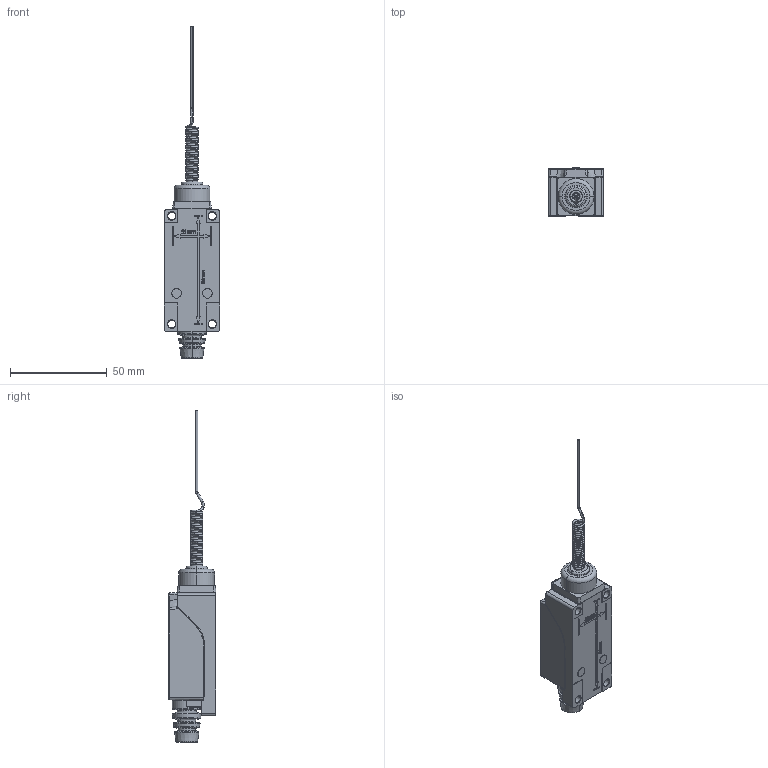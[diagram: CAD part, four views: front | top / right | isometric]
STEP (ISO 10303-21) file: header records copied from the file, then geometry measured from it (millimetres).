
FILE_DESCRIPTION((''),'2;1');
FILE_NAME('ALS1-M11_J1_ASM','2019-02-20T16:19:08',('1'),(''),'CREO PARAMETRIC BY PTC INC, 2016510','CREO PARAMETRIC BY PTC INC, 2016510','');
FILE_SCHEMA(('CONFIG_CONTROL_DESIGN'));
Products named in the file (1): ALS1-M11_J1_ASM
Bounding box: 28.5 x 24.8 x 171.8 mm (x, y, z)
Volume: 12189 mm3; surface area: 25498.8 mm2
Topology: 1 solids, 21 shells, 1303 faces, 3437 edges, 2184 vertices
Faces by surface type: plane 499, cylinder 419, torus 137, cone 80, bspline 79, extrusion 61, sphere 28
Entity records: 59432 total; most frequent: CARTESIAN_POINT 27989, ORIENTED_EDGE 6743, DIRECTION 6229, EDGE_CURVE 3409, AXIS2_PLACEMENT_3D 2250, VERTEX_POINT 2184, VECTOR 1729, LINE 1668
